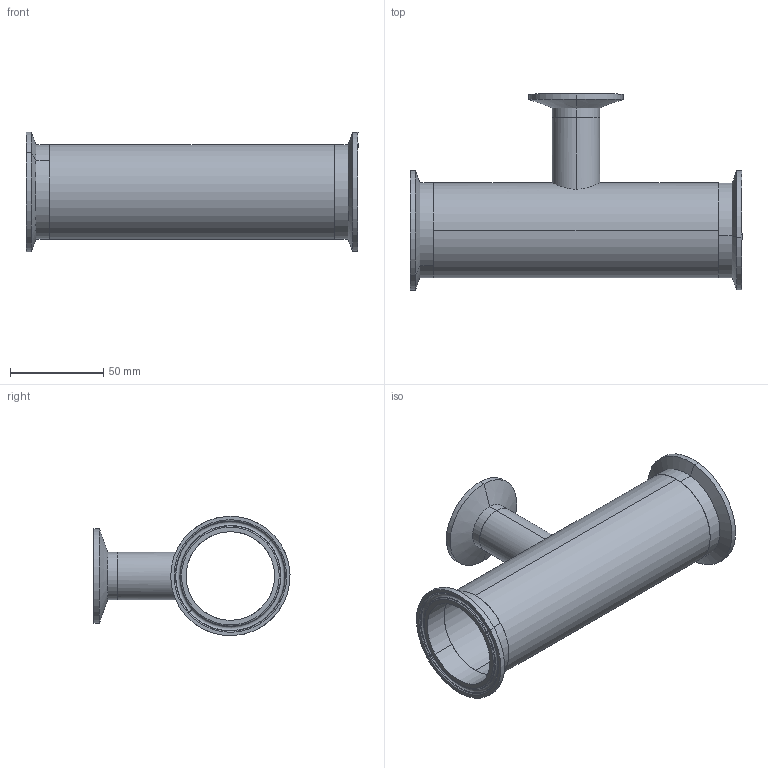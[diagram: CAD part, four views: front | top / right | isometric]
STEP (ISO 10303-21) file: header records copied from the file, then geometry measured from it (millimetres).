
FILE_DESCRIPTION (( 'STEP AP203' ), '1' );
FILE_NAME ('EG7R 2.0X1.0.STEP', '2021-10-25T14:24:22', ( '' ), ( '' ), 'SwSTEP 2.0', 'SolidWorks 2021', '' );
FILE_SCHEMA (( 'CONFIG_CONTROL_DESIGN' ));
Length unit declared in the file: inch
Products named in the file (4): EG2CS2.0; V7WR 2.0X1.0; EG7R 2.0X1.0; EG2CS1.0
Assembly tree (4 placements, depth 2):
  EG7R 2.0X1.0
    V7WR 2.0X1.0
    EG2CS1.0
    EG2CS2.0  x2
Bounding box: 177.8 x 104.97 x 63.89 mm (x, y, z)
Volume: 65832.2 mm3; surface area: 71279.7 mm2
Topology: 4 solids, 4 shells, 70 faces, 142 edges, 84 vertices
Faces by surface type: cylinder 26, torus 18, cone 14, plane 12
Entity records: 1965 total; most frequent: CARTESIAN_POINT 417, DIRECTION 276, ORIENTED_EDGE 200, AXIS2_PLACEMENT_3D 124, EDGE_CURVE 100, CIRCLE 68, VERTEX_POINT 60, EDGE_LOOP 60
